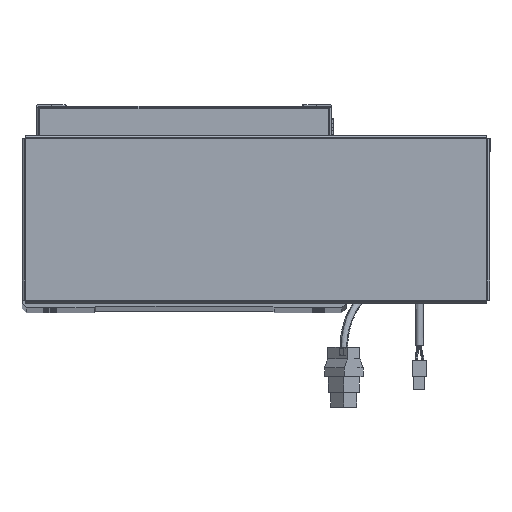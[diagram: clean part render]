
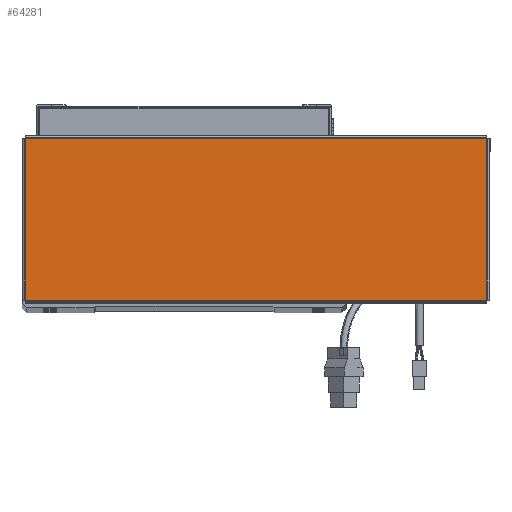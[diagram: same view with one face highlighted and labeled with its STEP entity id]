
A CAD part, top view. The second image highlights one B-rep face of the part: STEP entity #64281.
In plain terms, the highlighted planar face has unit normal (0, 0, 1).
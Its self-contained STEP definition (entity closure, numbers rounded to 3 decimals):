
#478 = CARTESIAN_POINT ( 'NONE',  ( -156.513, 54.793, 0. ) ) ;
#2810 = DIRECTION ( 'NONE',  ( 1., 0., 0. ) ) ;
#2850 = CARTESIAN_POINT ( 'NONE',  ( 156.543, 54.763, 0. ) ) ;
#3463 = LINE ( 'NONE', #478, #34319 ) ;
#3933 = ORIENTED_EDGE ( 'NONE', *, *, #20191, .T. ) ;
#14507 = LINE ( 'NONE', #21103, #55555 ) ;
#14678 = CARTESIAN_POINT ( 'NONE',  ( -156.513, -54.763, 0. ) ) ;
#18485 = CARTESIAN_POINT ( 'NONE',  ( 156.513, 54.763, 0. ) ) ;
#19262 = ORIENTED_EDGE ( 'NONE', *, *, #35196, .T. ) ;
#20191 = EDGE_CURVE ( 'NONE', #57711, #28314, #28639, .T. ) ;
#21103 = CARTESIAN_POINT ( 'NONE',  ( -156.543, -54.763, 0. ) ) ;
#21247 = EDGE_CURVE ( 'NONE', #28314, #62838, #3463, .T. ) ;
#22388 = VECTOR ( 'NONE', #57760, 1000. ) ;
#23338 = CARTESIAN_POINT ( 'NONE',  ( 156.513, -54.763, 0. ) ) ;
#25720 = LINE ( 'NONE', #46989, #22388 ) ;
#28314 = VERTEX_POINT ( 'NONE', #47234 ) ;
#28639 = LINE ( 'NONE', #2850, #67233 ) ;
#29874 = CARTESIAN_POINT ( 'NONE',  ( 0., 0., 0. ) ) ;
#31545 = ORIENTED_EDGE ( 'NONE', *, *, #39592, .T. ) ;
#34319 = VECTOR ( 'NONE', #48653, 1000. ) ;
#35196 = EDGE_CURVE ( 'NONE', #62838, #62145, #14507, .T. ) ;
#39592 = EDGE_CURVE ( 'NONE', #62145, #57711, #25720, .T. ) ;
#39732 = FACE_OUTER_BOUND ( 'NONE', #40608, .T. ) ;
#40608 = EDGE_LOOP ( 'NONE', ( #19262, #31545, #3933, #44710 ) ) ;
#44710 = ORIENTED_EDGE ( 'NONE', *, *, #21247, .T. ) ;
#46989 = CARTESIAN_POINT ( 'NONE',  ( 156.513, -54.793, 0. ) ) ;
#47234 = CARTESIAN_POINT ( 'NONE',  ( -156.513, 54.763, 0. ) ) ;
#48237 = AXIS2_PLACEMENT_3D ( 'NONE', #29874, #67361, #2810 ) ;
#48653 = DIRECTION ( 'NONE',  ( 0., -1., 0. ) ) ;
#51456 = PLANE ( 'NONE',  #48237 ) ;
#55555 = VECTOR ( 'NONE', #58842, 1000. ) ;
#56637 = DIRECTION ( 'NONE',  ( -1., 0., 0. ) ) ;
#57711 = VERTEX_POINT ( 'NONE', #18485 ) ;
#57760 = DIRECTION ( 'NONE',  ( 0., 1., 0. ) ) ;
#58842 = DIRECTION ( 'NONE',  ( 1., 0., 0. ) ) ;
#62145 = VERTEX_POINT ( 'NONE', #23338 ) ;
#62838 = VERTEX_POINT ( 'NONE', #14678 ) ;
#64281 = ADVANCED_FACE ( 'NONE', ( #39732 ), #51456, .T. ) ;
#67233 = VECTOR ( 'NONE', #56637, 1000. ) ;
#67361 = DIRECTION ( 'NONE',  ( 0., 0., 1. ) ) ;
